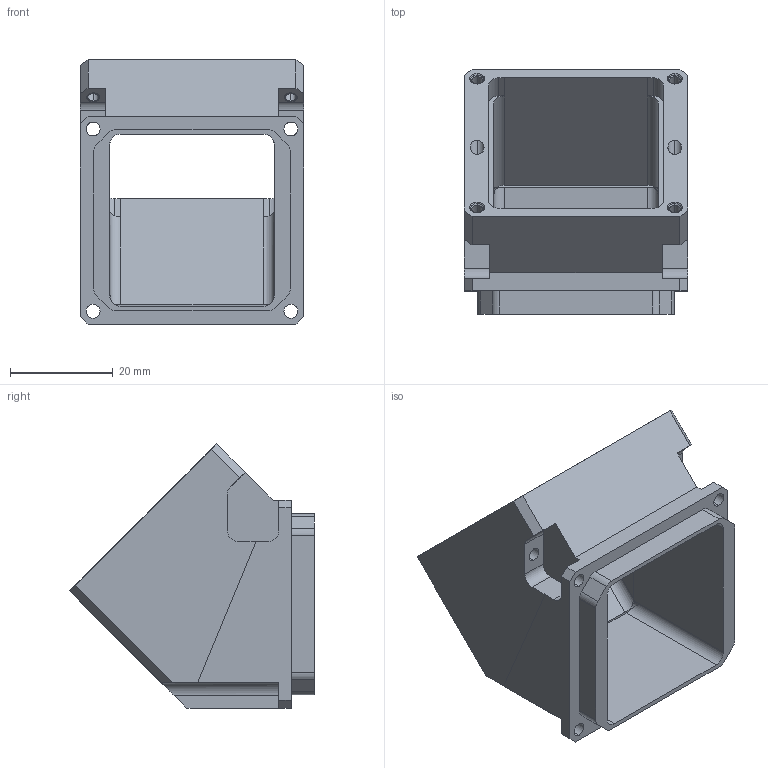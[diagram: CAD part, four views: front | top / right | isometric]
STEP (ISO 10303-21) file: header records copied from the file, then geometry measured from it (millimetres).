
FILE_DESCRIPTION(/* description */ ('VariCAD 2008 3.04 AP-203'),/* implementation_level */ '2;1');
FILE_NAME(/* name */ '0353-12-11',/* time_stamp */ '2009-03-19T16:30:00-06:00',/* author */ (''),/* organization */ (''),/* preprocessor_version */ 'ST-DEVELOPER v12',/* originating_system */ 'VariCAD 2008 3.04; kernel version (20080715)',/* authorisation */ '');
FILE_SCHEMA (('CONFIG_CONTROL_DESIGN'));
Length unit declared in the file: millimetre
Products named in the file (1): Part
Bounding box: 43.5 x 47.61 x 51.47 mm (x, y, z)
Volume: 21242.2 mm3; surface area: 14336.9 mm2
Topology: 5 solids, 5 shells, 159 faces, 413 edges, 266 vertices
Faces by surface type: plane 74, cylinder 69, cone 16
Entity records: 5294 total; most frequent: CARTESIAN_POINT 1198, DIRECTION 863, ORIENTED_EDGE 826, EDGE_CURVE 413, AXIS2_PLACEMENT_3D 302, VERTEX_POINT 266, LINE 259, VECTOR 259
